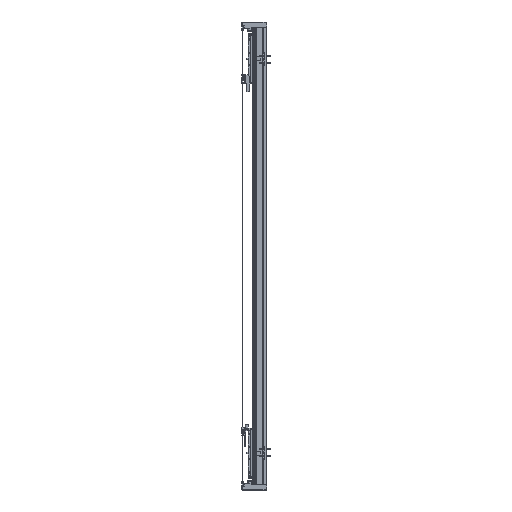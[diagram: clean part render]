
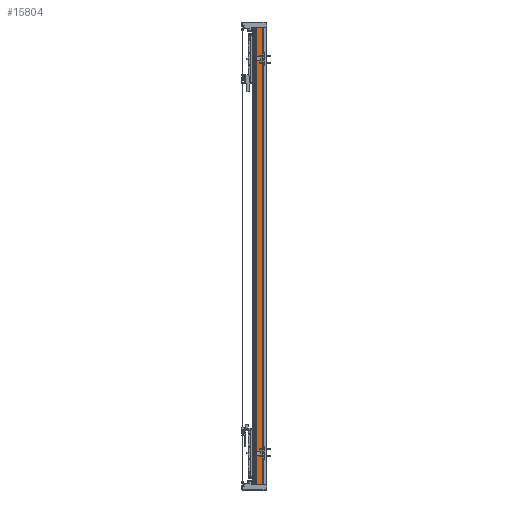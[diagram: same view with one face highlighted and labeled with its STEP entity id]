
A CAD part, left-side view. The second image highlights one B-rep face of the part: STEP entity #15804.
In plain terms, the highlighted planar face has unit normal (-1, 0, 0).
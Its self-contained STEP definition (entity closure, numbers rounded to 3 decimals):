
#13402 = CARTESIAN_POINT ( 'NONE',  ( -82.5, 36.95, -870. ) ) ;
#14108 = CARTESIAN_POINT ( 'NONE',  ( -82.5, 36.95, 870. ) ) ;
#15804 = ADVANCED_FACE ( 'NONE', ( #87508 ), #41309, .F. ) ;
#19301 = LINE ( 'NONE', #61531, #47643 ) ;
#22709 = LINE ( 'NONE', #13402, #68474 ) ;
#27548 = ORIENTED_EDGE ( 'NONE', *, *, #101102, .T. ) ;
#36792 = DIRECTION ( 'NONE',  ( 0., 0., -1. ) ) ;
#39109 = EDGE_CURVE ( 'NONE', #39327, #86327, #62191, .T. ) ;
#39327 = VERTEX_POINT ( 'NONE', #67353 ) ;
#39682 = LINE ( 'NONE', #75354, #96036 ) ;
#41309 = PLANE ( 'NONE',  #48474 ) ;
#41926 = DIRECTION ( 'NONE',  ( 0., -1., 0. ) ) ;
#42545 = VECTOR ( 'NONE', #80843, 1000. ) ;
#43259 = ORIENTED_EDGE ( 'NONE', *, *, #39109, .F. ) ;
#44686 = EDGE_LOOP ( 'NONE', ( #95078, #43259, #104246, #27548 ) ) ;
#47643 = VECTOR ( 'NONE', #36792, 1000. ) ;
#48262 = CARTESIAN_POINT ( 'NONE',  ( -82.5, 36.95, -870. ) ) ;
#48474 = AXIS2_PLACEMENT_3D ( 'NONE', #67670, #88087, #52419 ) ;
#52419 = DIRECTION ( 'NONE',  ( 0., 1., 0. ) ) ;
#61531 = CARTESIAN_POINT ( 'NONE',  ( -82.5, 36.95, 870. ) ) ;
#62191 = LINE ( 'NONE', #115302, #42545 ) ;
#62783 = EDGE_CURVE ( 'NONE', #101550, #86327, #22709, .T. ) ;
#66630 = DIRECTION ( 'NONE',  ( 0., -1., 0. ) ) ;
#67353 = CARTESIAN_POINT ( 'NONE',  ( -82.5, 14.45, 870. ) ) ;
#67670 = CARTESIAN_POINT ( 'NONE',  ( -82.5, 36.95, 870. ) ) ;
#68474 = VECTOR ( 'NONE', #41926, 1000. ) ;
#69230 = CARTESIAN_POINT ( 'NONE',  ( -82.5, 14.45, -870. ) ) ;
#75354 = CARTESIAN_POINT ( 'NONE',  ( -82.5, 36.95, 870. ) ) ;
#80843 = DIRECTION ( 'NONE',  ( 0., 0., -1. ) ) ;
#86327 = VERTEX_POINT ( 'NONE', #69230 ) ;
#87508 = FACE_OUTER_BOUND ( 'NONE', #44686, .T. ) ;
#88087 = DIRECTION ( 'NONE',  ( 1., 0., 0. ) ) ;
#94152 = EDGE_CURVE ( 'NONE', #110143, #39327, #39682, .T. ) ;
#95078 = ORIENTED_EDGE ( 'NONE', *, *, #62783, .T. ) ;
#96036 = VECTOR ( 'NONE', #66630, 1000. ) ;
#101102 = EDGE_CURVE ( 'NONE', #110143, #101550, #19301, .T. ) ;
#101550 = VERTEX_POINT ( 'NONE', #48262 ) ;
#104246 = ORIENTED_EDGE ( 'NONE', *, *, #94152, .F. ) ;
#110143 = VERTEX_POINT ( 'NONE', #14108 ) ;
#115302 = CARTESIAN_POINT ( 'NONE',  ( -82.5, 14.45, 870. ) ) ;
